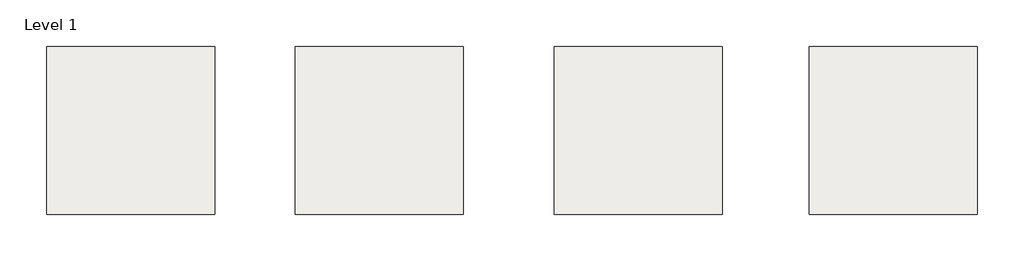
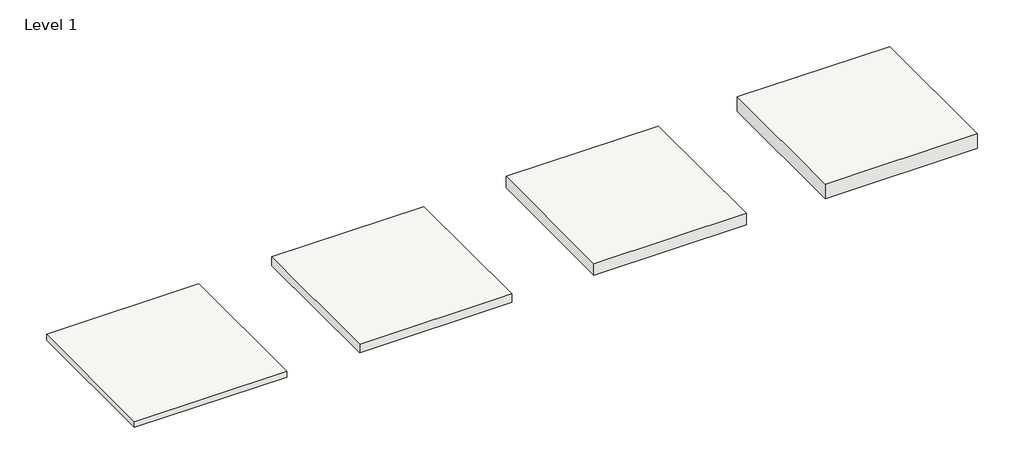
# One storey: 4 roofs.
"""IFC4 building model written with IfcOpenShell, lengths in millimetres."""

from ifc_helpers import new_model, si_unit, origin, origin_with_axes, place, context, project, spatial, polyline, outline, extrude, element, save

model = new_model("IFC4")

# Units and contexts
model_context = context("Model", 3, world=origin())
ifc_project = project(units=[si_unit("LENGTHUNIT", "METRE", prefix="MILLI")], contexts=[model_context])

# Site, building, storey
site = spatial("IfcSite", under=ifc_project)
building = spatial("IfcBuilding", under=site)
storey = spatial("IfcBuildingStorey", under=building, Name="Level 1", Elevation=0.0)

# Roofs
placement = place(None, origin())
element("IfcRoof", 1, ObjectType="SOFALCA-ICB-1000x500mm-40mm", at=placement, inside=storey, context=model_context, shape_type="SweptSolid", body=[
    extrude(outline(polyline([(10095.4146815, 1448.9548643), (11095.4146815, 1448.9548643), (11095.4146815, 448.9548643), (10095.4146815, 448.9548643), (10095.4146815, 1448.9548643)])), origin_with_axes(), (0.0, 0.0, 1.0), 40.0),
])
element("IfcRoof", 2, ObjectType="SOFALCA-ICB-1000x500mm-60mm", at=placement, inside=storey, context=model_context, shape_type="SweptSolid", body=[
    extrude(outline(polyline([(11575.4146815, 1448.9548643), (12575.4146815, 1448.9548643), (12575.4146815, 448.9548643), (11575.4146815, 448.9548643), (11575.4146815, 1448.9548643)])), origin_with_axes(), (0.0, 0.0, 1.0), 60.0),
])
element("IfcRoof", 3, ObjectType="SOFALCA-ICB-1000x500mm-80mm", at=placement, inside=storey, context=model_context, shape_type="SweptSolid", body=[
    extrude(outline(polyline([(13115.4146815, 1448.9548643), (14115.4146815, 1448.9548643), (14115.4146815, 448.9548643), (13115.4146815, 448.9548643), (13115.4146815, 1448.9548643)])), origin_with_axes(), (0.0, 0.0, 1.0), 80.0),
])
element("IfcRoof", 4, ObjectType="SOFALCA-ICB-1000x500mm-100mm", at=placement, inside=storey, context=model_context, shape_type="SweptSolid", body=[
    extrude(outline(polyline([(14635.4146815, 1448.9548643), (15635.4146815, 1448.9548643), (15635.4146815, 448.9548643), (14635.4146815, 448.9548643), (14635.4146815, 1448.9548643)])), origin_with_axes(), (0.0, 0.0, 1.0), 100.0),
])

save(model, "model.ifc")
